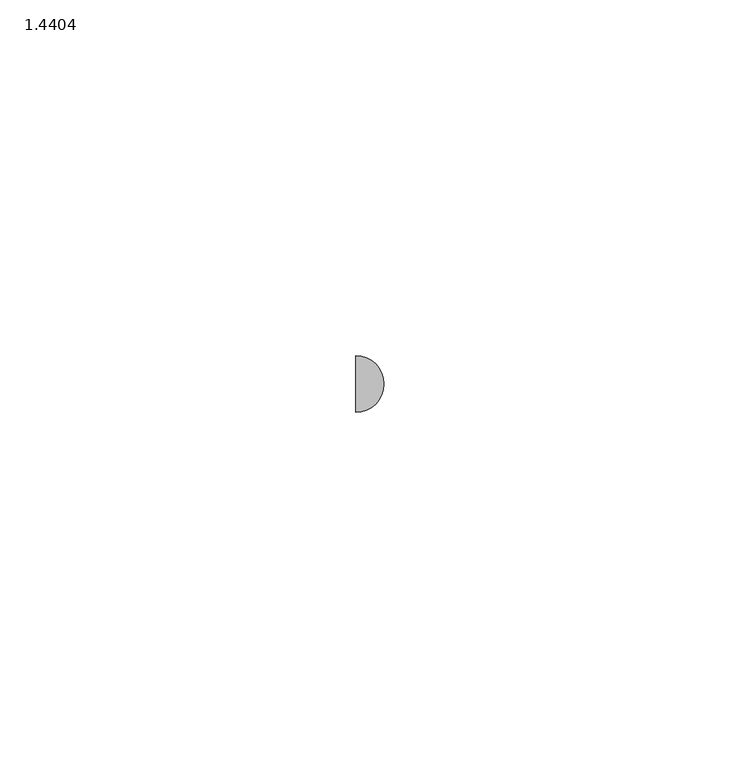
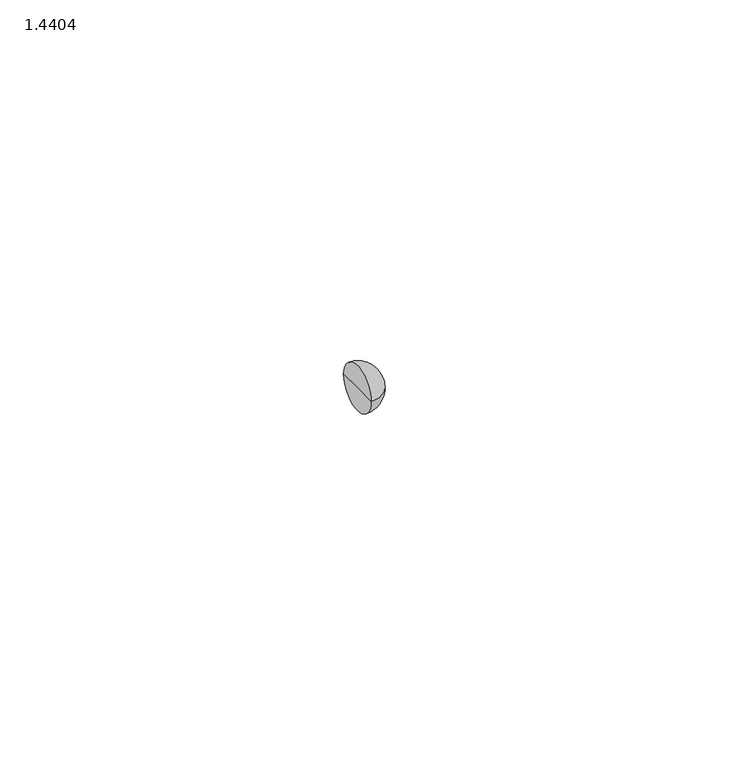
"""IFC4 building model written with IfcOpenShell, lengths in millimetres: pipe fitting geometry, PIF_ST_UN_ACO pipe multireducer_ACO : 1.4404."""

import ifcopenshell
import ifcopenshell.guid

model = None  # the IFC model being written
_history = None  # IfcOwnerHistory: only IFC2X3 demands one
_inside = {}  # id of a spatial element -> (the spatial element, [elements in it])
_under = {}  # id of a project, library or spatial element -> (it, [spatial elements below it])
_declared = {}  # id of a project -> (the project, [libraries it declares])
_typed = {}  # id of a type object -> (the type object, [elements of that type])
_made_of = {}  # id of a material, layer set ... -> (it, [elements and type objects made of it])


def new_model(schema):
    """Start an empty IFC model of exactly this schema.

    Asked for "IFC4X3", IfcOpenShell would pick the latest addendum, in which some entities
    have other attributes; the version numbers below select the first issue.
    IFC2X3 requires an IfcOwnerHistory on every rooted entity: one is made here for all.
    """
    global model, _history
    if schema == "IFC4X3":
        model = ifcopenshell.file(schema_version=(4, 3, 0, 0))
    else:
        model = ifcopenshell.file(schema=schema)
    _inside.clear()
    _under.clear()
    _declared.clear()
    _typed.clear()
    _made_of.clear()
    _history = None
    if model.schema == "IFC2X3":
        org = make("IfcOrganization", Name="unknown")
        user = make(
            "IfcPersonAndOrganization",
            ThePerson=make("IfcPerson", FamilyName="unknown"),
            TheOrganization=org,
        )
        app = make(
            "IfcApplication",
            ApplicationDeveloper=org,
            Version="unknown",
            ApplicationFullName="unknown",
            ApplicationIdentifier="unknown",
        )
        _history = make(
            "IfcOwnerHistory",
            OwningUser=user,
            OwningApplication=app,
            ChangeAction="ADDED",
            CreationDate=0,
        )
    return model


def make(cls, **values):
    """One entity of the class cls with the attributes given. An attribute that is None is left unset."""
    return model.create_entity(
        cls, **{name: value for name, value in values.items() if value is not None}
    )


def rooted(cls, **values):
    """An entity with a GlobalId (a new one), such as an element, a storey or a relation."""
    return make(cls, GlobalId=ifcopenshell.guid.new(), OwnerHistory=_history, **values)


def si_unit(unit_type, name, prefix=None):
    """IfcSIUnit, for example si_unit("LENGTHUNIT", "METRE", prefix="MILLI")."""
    return make("IfcSIUnit", UnitType=unit_type, Prefix=prefix, Name=name)


def assignment(units):
    """IfcUnitAssignment: the units of a project."""
    return None if units is None else make("IfcUnitAssignment", Units=units)


def point(xyz):
    """IfcCartesianPoint."""
    return None if xyz is None else make("IfcCartesianPoint", Coordinates=xyz)


def direction(xyz):
    """IfcDirection."""
    return None if xyz is None else make("IfcDirection", DirectionRatios=xyz)


def frame(location, z_axis=None, x_axis=None):
    """IfcAxis2Placement3D, a coordinate frame: its origin and axes. An axis left out is left unset."""
    return make(
        "IfcAxis2Placement3D",
        Location=point(location),
        Axis=direction(z_axis),
        RefDirection=direction(x_axis),
    )


def origin():
    """The frame at (0, 0, 0) with its axes left unset."""
    return frame((0.0, 0.0, 0.0))


def place(relative_to, where):
    """IfcLocalPlacement: puts the frame where relative to a parent placement (None: the world)."""
    return make(
        "IfcLocalPlacement", PlacementRelTo=relative_to, RelativePlacement=where
    )


def context(
    kind, dimensions, precision=None, world=None, true_north=None, identifier=None
):
    """IfcGeometricRepresentationContext, for example the 3D "Model" context."""
    return make(
        "IfcGeometricRepresentationContext",
        ContextIdentifier=identifier,
        ContextType=kind,
        CoordinateSpaceDimension=dimensions,
        Precision=precision,
        WorldCoordinateSystem=world,
        TrueNorth=true_north,
    )


def project(units=None, contexts=None):
    """IfcProject with its units and contexts."""
    return rooted(
        "IfcProject",
        Name="project",
        RepresentationContexts=contexts,
        UnitsInContext=assignment(units),
    )


def spatial(cls, under=None, at=None, **own):
    """A site, building, storey or space (cls), placed at a placement, below another one or the project."""
    s = rooted(cls, ObjectPlacement=at, **own)
    if under is not None:
        _under.setdefault(under.id(), (under, []))[1].append(s)
    return s


def circle_curve(where, radius):
    """IfcCircle in the frame where."""
    return make("IfcCircle", Position=where, Radius=radius)


def ellipse_curve(where, semi_axis1, semi_axis2):
    """IfcEllipse in the frame where."""
    return make(
        "IfcEllipse", Position=where, SemiAxis1=semi_axis1, SemiAxis2=semi_axis2
    )


def trimmed(basis, trim1, trim2, sense, master):
    """IfcTrimmedCurve: the piece of a basis curve between two trims."""
    return make(
        "IfcTrimmedCurve",
        BasisCurve=basis,
        Trim1=trim1,
        Trim2=trim2,
        SenseAgreement=sense,
        MasterRepresentation=master,
    )


def shape(context_of_items, identifier, shape_type, items):
    """IfcShapeRepresentation: the items that make up one representation, for example the "Body"."""
    return make(
        "IfcShapeRepresentation",
        ContextOfItems=context_of_items,
        RepresentationIdentifier=identifier,
        RepresentationType=shape_type,
        Items=items,
    )


def source(mapping_origin, context_of_items, identifier, shape_type, items):
    """IfcRepresentationMap: a shape defined once, which mapped items show again and again."""
    return make(
        "IfcRepresentationMap",
        MappingOrigin=mapping_origin,
        MappedRepresentation=shape(context_of_items, identifier, shape_type, items),
    )


def transform(
    local_origin,
    x_axis=None,
    y_axis=None,
    z_axis=None,
    scale=None,
    scale2=None,
    scale3=None,
    uniform=True,
):
    """IfcCartesianTransformationOperator3D, or its non-uniform kind. x_axis, y_axis, z_axis: its Axis1, 2, 3."""
    if uniform:
        return make(
            "IfcCartesianTransformationOperator3D",
            Axis1=direction(x_axis),
            Axis2=direction(y_axis),
            LocalOrigin=point(local_origin),
            Scale=scale,
            Axis3=direction(z_axis),
        )
    return make(
        "IfcCartesianTransformationOperator3DnonUniform",
        Axis1=direction(x_axis),
        Axis2=direction(y_axis),
        LocalOrigin=point(local_origin),
        Scale=scale,
        Axis3=direction(z_axis),
        Scale2=scale2,
        Scale3=scale3,
    )


def mapped(mapping_source, mapping_target):
    """IfcMappedItem: shows the shape of a source again, moved by a transform."""
    return make(
        "IfcMappedItem", MappingSource=mapping_source, MappingTarget=mapping_target
    )


def made_of(thing, what):
    """Note that an element or type object is made of a material, layer set ...; save() writes the relation."""
    if what is not None:
        _made_of.setdefault(what.id(), (what, []))[1].append(thing)
    return thing


def element(
    cls,
    number,
    at=None,
    inside=None,
    cuts=None,
    type_object=None,
    material=None,
    context=None,
    identifier="Body",
    shape_type=None,
    held_by="IfcProductDefinitionShape",
    body=None,
    shapes=None,
    **own,
):
    """One element of the class cls, such as IfcWall. Its Tag is "e" and its number.

    at: its placement. inside: the storey or other place that contains it. cuts: it is an
    opening in that element (IfcRelVoidsElement). A single representation is given by context,
    identifier, shape_type and body (its items); several are given by shapes. held_by: the class
    of the entity that holds the representations. save() writes the other relations.
    """
    e = rooted(cls, Tag="e%d" % number, ObjectPlacement=at, **own)
    if body is not None:
        shapes = [shape(context, identifier, shape_type, body)]
    if shapes is not None:
        e.Representation = make(held_by, Representations=shapes)
    if inside is not None:
        _inside.setdefault(inside.id(), (inside, []))[1].append(e)
    if cuts is not None:
        rooted(
            "IfcRelVoidsElement", RelatingBuildingElement=cuts, RelatedOpeningElement=e
        )
    if type_object is not None:
        _typed.setdefault(type_object.id(), (type_object, []))[1].append(e)
    return made_of(e, material)


def aggregate(whole, parts):
    """IfcRelAggregates: a whole, such as a stair, and the parts it consists of."""
    return rooted("IfcRelAggregates", RelatingObject=whole, RelatedObjects=parts)


def save(model, path):
    """Write the relations noted so far, then the file.

    IfcRelAggregates (storeys below a building ...), IfcRelContainedInSpatialStructure (elements
    in a storey), IfcRelDefinesByType, IfcRelAssociatesMaterial and IfcRelDeclares: one each for
    every whole, place, type object, material and project.
    """
    for whole, parts in _under.values():
        aggregate(whole, parts)
    for where, things in _inside.values():
        rooted(
            "IfcRelContainedInSpatialStructure",
            RelatedElements=things,
            RelatingStructure=where,
        )
    for kind, things in _typed.values():
        rooted("IfcRelDefinesByType", RelatedObjects=things, RelatingType=kind)
    for what, things in _made_of.values():
        rooted("IfcRelAssociatesMaterial", RelatedObjects=things, RelatingMaterial=what)
    for by, libraries in _declared.values():
        rooted("IfcRelDeclares", RelatingContext=by, RelatedDefinitions=libraries)
    model.write(path)


def plane_surface(at):
    """IfcPlane: the flat surface through the origin of the frame at, square to its z axis."""
    return make("IfcPlane", Position=at)


def revolved_surface(curve, axis_point, axis_direction):
    """IfcSurfaceOfRevolution: the curve turned about the line through axis_point along axis_direction."""
    return make(
        "IfcSurfaceOfRevolution",
        SweptCurve=make("IfcArbitraryOpenProfileDef", ProfileType="CURVE", Curve=curve),
        AxisPosition=make("IfcAxis1Placement", Location=point(axis_point), Axis=direction(axis_direction)),
    )


def advanced_brep(points, edges, surfaces, faces):
    """IfcAdvancedBrep: a solid bounded by faces that lie on surfaces and meet in shared edges.

    An edge is (start, end): straight between two places in points (the first is 0);
    or (start, end, curve); or (start, end, curve, False) where it runs against its curve.
    A face is (place in surfaces, loops), or (place, loops, False) where it looks against
    its surface's normal. A loop lists edges by number (the first is 1), with a minus sign
    where the edge is run from its end to its start. The first loop is the outer one.
    """
    corners = [point(p) for p in points]
    vertices = [make("IfcVertexPoint", VertexGeometry=c) for c in corners]
    made = []
    for start, end, *more in edges:
        made.append(
            make(
                "IfcEdgeCurve",
                EdgeStart=vertices[start],
                EdgeEnd=vertices[end],
                EdgeGeometry=more[0] if more else make("IfcPolyline", Points=[corners[start], corners[end]]),
                SameSense=more[1] if len(more) > 1 else True,
            )
        )
    hull = []
    for where, loops, *sense in faces:
        bounds = []
        for j, loop in enumerate(loops):
            ring = [make("IfcOrientedEdge", EdgeElement=made[abs(k) - 1], Orientation=k > 0) for k in loop]
            bounds.append(
                make(
                    "IfcFaceOuterBound" if j == 0 else "IfcFaceBound",
                    Bound=make("IfcEdgeLoop", EdgeList=ring),
                    Orientation=True,
                )
            )
        hull.append(make("IfcAdvancedFace", Bounds=bounds, FaceSurface=surfaces[where], SameSense=sense[0] if sense else True))
    return make("IfcAdvancedBrep", Outer=make("IfcClosedShell", CfsFaces=hull))


def pipe_fitting_1_4404_189c9de8(model_context):
    return source(origin(), model_context, "Body", "AdvancedBrep", [
        advanced_brep(
        [(-80.0, 0.0, 0.0), (-80.0, 4.0, 0.0), (-80.0, -4.0, 0.0), (-76.0, 0.0, 0.0)],
        [
            (0, 1),
            (1, 2, circle_curve(frame((-80.0, 0.0, 0.0), z_axis=(-1.0, 0.0, 0.0), x_axis=(0.0, 1.0, 0.0)), 4.0)),
            (2, 0),
            (2, 1, circle_curve(frame((-80.0, 0.0, 0.0), z_axis=(-1.0, 0.0, 0.0), x_axis=(0.0, 1.0, 0.0)), 4.0)),
            (1, 3, circle_curve(frame((-80.0, 0.0, 0.0), z_axis=(0.0, 0.0, -1.0), x_axis=(1.0, 0.0, 0.0)), 4.0)),
            (3, 2, circle_curve(frame((-80.0, 0.0, 0.0), z_axis=(0.0, 0.0, -1.0), x_axis=(1.0, 0.0, 0.0)), 4.0)),
        ],
        [
            plane_surface(frame((-80.0, 0.0, 0.0), z_axis=(-1.0, 0.0, 0.0), x_axis=(0.0, 1.0, 0.0))),
            revolved_surface(trimmed(ellipse_curve(frame((-80.0, 0.0, 0.0), z_axis=(0.0, 0.0, 1.0), x_axis=(1.0, 0.0, 0.0)), 4.0, 4.0), [point((-76.0, 0.0, 0.0))], [point((-80.0, 4.0, 0.0))], True, "CARTESIAN"), (-93.6508039, 0.0, 0.0), (-1.0, 0.0, 0.0)),
        ],
        [
            (0, [[1, 2, 3]]),
            (0, [[-3, 4, -1]]),
            (1, [[-2, 5, 6]]),
            (1, [[-4, -6, -5]]),
        ],
    ),
    ])


if __name__ == "__main__":
    model = new_model("IFC4")
    model_context = context("Model", 3, world=origin())
    ifc_project = project(units=[si_unit("LENGTHUNIT", "METRE", prefix="MILLI")], contexts=[model_context])
    site = spatial("IfcSite", under=ifc_project)
    building = spatial("IfcBuilding", under=site)
    placement = place(None, origin())
    pipe_fitting_1_4404_shape = pipe_fitting_1_4404_189c9de8(model_context)
    element("IfcPipeFitting", 1, ObjectType="PIF_ST_UN_ACO pipe multireducer_ACO : 1.4404", at=placement, inside=building, context=model_context, shape_type="MappedRepresentation", body=[
        mapped(pipe_fitting_1_4404_shape, transform((0.0, 0.0, 0.0), x_axis=(1.0, 0.0, 0.0), y_axis=(0.0, 1.0, 0.0), z_axis=(0.0, 0.0, 1.0))),
    ])
    save(model, "model.ifc")
